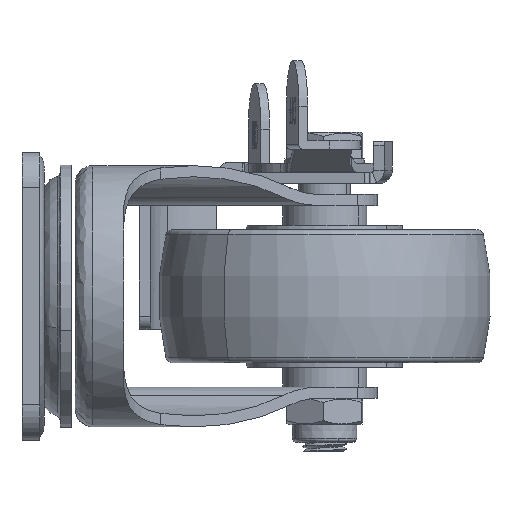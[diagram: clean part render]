
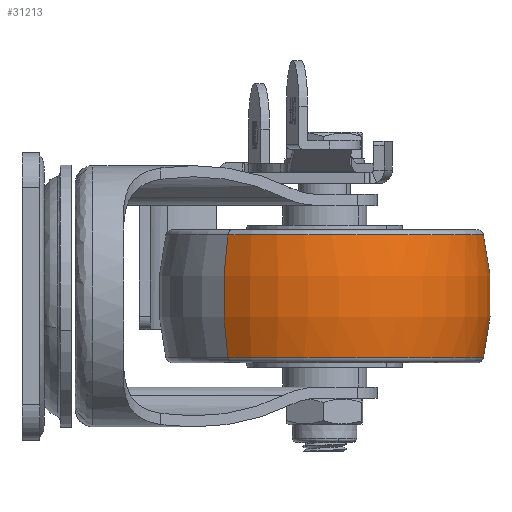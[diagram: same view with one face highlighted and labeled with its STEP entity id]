
A CAD part, left-side view. The second image highlights one B-rep face of the part: STEP entity #31213.
In plain terms, the highlighted toroidal (fillet/blend) face has major radius 22.5 mm and minor radius 60 mm.
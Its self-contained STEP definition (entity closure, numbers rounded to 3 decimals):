
#710 = DIRECTION ( 'NONE',  ( 0., -1., 0. ) ) ;
#3227 = CIRCLE ( 'NONE', #11030, 60. ) ;
#5370 = EDGE_LOOP ( 'NONE', ( #10422, #19049, #30716, #17100 ) ) ;
#7119 = CARTESIAN_POINT ( 'NONE',  ( 0., 0., -22.5 ) ) ;
#7153 = CARTESIAN_POINT ( 'NONE',  ( -13.846, 0., -35.881 ) ) ;
#8922 = DIRECTION ( 'NONE',  ( 0., 0., -1. ) ) ;
#9438 = DIRECTION ( 'NONE',  ( 0., 0., 1. ) ) ;
#10185 = CARTESIAN_POINT ( 'NONE',  ( 13.846, 0., 0. ) ) ;
#10422 = ORIENTED_EDGE ( 'NONE', *, *, #30828, .F. ) ;
#10880 = CARTESIAN_POINT ( 'NONE',  ( 13.846, 0., -35.881 ) ) ;
#10978 = TOROIDAL_SURFACE ( 'NONE', #24889, -22.5, 60. ) ;
#11030 = AXIS2_PLACEMENT_3D ( 'NONE', #7119, #710, #8922 ) ;
#13756 = DIRECTION ( 'NONE',  ( 0., 1., 0. ) ) ;
#13814 = AXIS2_PLACEMENT_3D ( 'NONE', #26853, #13756, #29640 ) ;
#15061 = DIRECTION ( 'NONE',  ( 0., 0., 1. ) ) ;
#16401 = CARTESIAN_POINT ( 'NONE',  ( -13.846, 0., 0. ) ) ;
#17100 = ORIENTED_EDGE ( 'NONE', *, *, #28582, .F. ) ;
#17164 = CIRCLE ( 'NONE', #26644, 35.881 ) ;
#18256 = DIRECTION ( 'NONE',  ( 0., 0., 1. ) ) ;
#18381 = EDGE_CURVE ( 'NONE', #28170, #21517, #23210, .T. ) ;
#18764 = CARTESIAN_POINT ( 'NONE',  ( 0., 0., 0. ) ) ;
#19049 = ORIENTED_EDGE ( 'NONE', *, *, #18381, .T. ) ;
#21517 = VERTEX_POINT ( 'NONE', #25054 ) ;
#22920 = DIRECTION ( 'NONE',  ( -1., 0., 0. ) ) ;
#23210 = CIRCLE ( 'NONE', #27673, 35.881 ) ;
#23484 = VERTEX_POINT ( 'NONE', #7153 ) ;
#24889 = AXIS2_PLACEMENT_3D ( 'NONE', #18764, #31520, #18256 ) ;
#25054 = CARTESIAN_POINT ( 'NONE',  ( 13.846, 0., 35.881 ) ) ;
#26641 = FACE_OUTER_BOUND ( 'NONE', #5370, .T. ) ;
#26644 = AXIS2_PLACEMENT_3D ( 'NONE', #16401, #27054, #9438 ) ;
#26853 = CARTESIAN_POINT ( 'NONE',  ( 0., 0., 22.5 ) ) ;
#27054 = DIRECTION ( 'NONE',  ( -1., 0., 0. ) ) ;
#27673 = AXIS2_PLACEMENT_3D ( 'NONE', #10185, #22920, #15061 ) ;
#27823 = EDGE_CURVE ( 'NONE', #21517, #32731, #3227, .T. ) ;
#28170 = VERTEX_POINT ( 'NONE', #10880 ) ;
#28582 = EDGE_CURVE ( 'NONE', #23484, #32731, #17164, .T. ) ;
#29352 = CARTESIAN_POINT ( 'NONE',  ( -13.846, 0., 35.881 ) ) ;
#29640 = DIRECTION ( 'NONE',  ( 0., 0., 1. ) ) ;
#30716 = ORIENTED_EDGE ( 'NONE', *, *, #27823, .T. ) ;
#30828 = EDGE_CURVE ( 'NONE', #28170, #23484, #31623, .T. ) ;
#31213 = ADVANCED_FACE ( 'NONE', ( #26641 ), #10978, .T. ) ;
#31520 = DIRECTION ( 'NONE',  ( -1., 0., 0. ) ) ;
#31623 = CIRCLE ( 'NONE', #13814, 60. ) ;
#32731 = VERTEX_POINT ( 'NONE', #29352 ) ;
